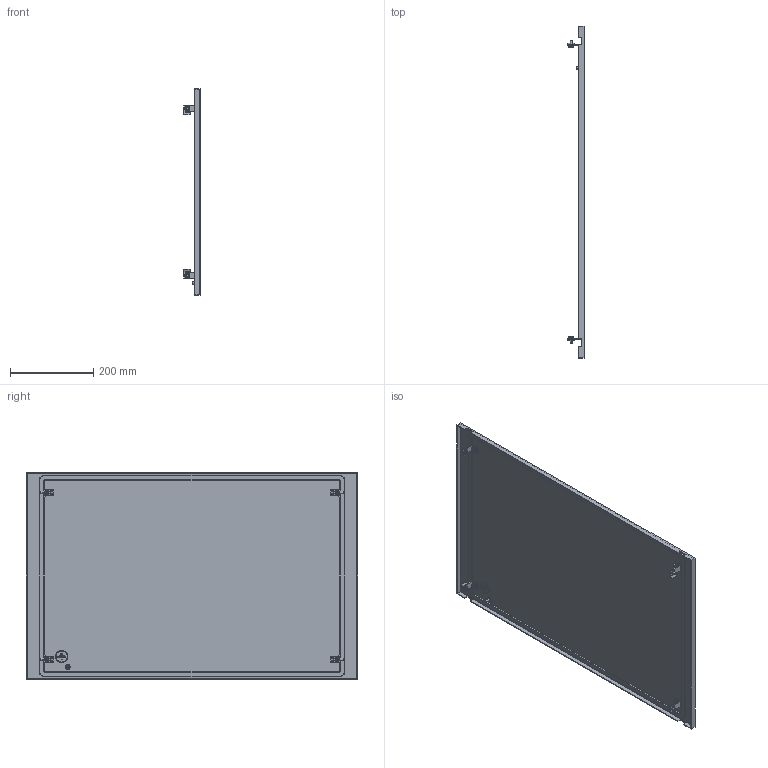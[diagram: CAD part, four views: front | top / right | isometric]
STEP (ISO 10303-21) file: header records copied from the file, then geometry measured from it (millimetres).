
FILE_DESCRIPTION (( 'STEP AP214' ), '1' );
FILE_NAME ('FO-00-PWSB-050-080 Ôàëüø-ïàíåëü âíåøíÿÿ ãëóõàÿ 500õ800 ìì.STEP', '2025-08-25T07:57:37', ( '' ), ( '' ), 'SwSTEP 2.0', 'SolidWorks 2023', '' );
FILE_SCHEMA (( 'AUTOMOTIVE_DESIGN' ));
Length unit declared in the file: millimetre
Products named in the file (1): FO-00-PWSB-050-080 Фальш-панель внешняя глухая 500х800 мм
Bounding box: 38.5 x 795 x 496 mm (x, y, z)
Volume: 936899.4 mm3; surface area: 872716.9 mm2
Topology: 1 solids, 10 shells, 846 faces, 2093 edges, 1287 vertices
Faces by surface type: plane 530, cylinder 202, cone 90, torus 24
Entity records: 25296 total; most frequent: CARTESIAN_POINT 4873, DIRECTION 4361, ORIENTED_EDGE 4182, EDGE_CURVE 2091, AXIS2_PLACEMENT_3D 1487, VECTOR 1387, LINE 1387, VERTEX_POINT 1287
